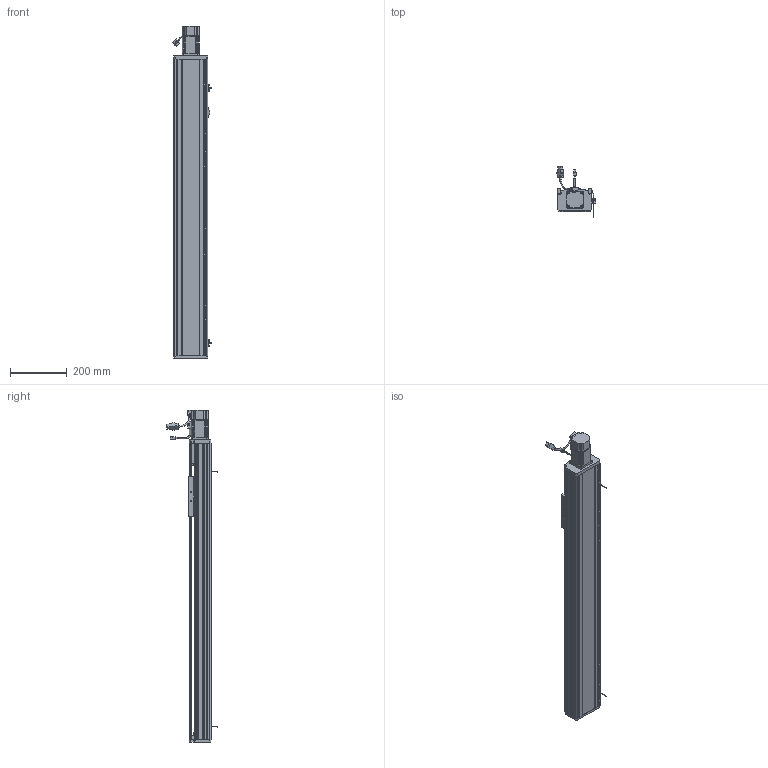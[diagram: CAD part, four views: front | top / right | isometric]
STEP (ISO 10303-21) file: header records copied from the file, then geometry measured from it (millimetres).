
FILE_DESCRIPTION (( 'STEP AP214' ), '1' );
FILE_NAME ('CTH120-800.STEP', '2019-11-20T02:43:34', ( '微软用户' ), ( '微软中国' ), 'SwSTEP 2.0', 'SolidWorks 2017', '' );
FILE_SCHEMA (( 'AUTOMOTIVE_DESIGN' ));
Length unit declared in the file: millimetre
Products named in the file (33): M3-L8囀鞠褒蹟佪; COL12B-粣遠; CT12耀郪-覜茼んえ; 坶踡蹟譫; EE-SX672-BR; 120耀郪-粣創釱; M4-L6半圆头内六角螺丝; 120耀郪-傷啣; M5-L20囀鞠褒蹟佪; 120模组-盖子_默认<按加工>; M5-L12囀鞠褒蹟佪; 120耀郪-侜督儂啣; 怢湛200W侜督萇儂ECMA-CX0602ES; SFH1605; 盓傅釱蚾饜极; 136蹟簽蟀諉輸; 6000; 120模组-移动座_默认<按加工>; 120耀郪-盓傅釱; SFH1605-450; M4-L16囀鞠褒蹟佪; 120模组-底座_默认<按加工>; EGH15-CA; EGH15_RAIL; CTH120-800; 珨极宒粣創釱; 遣喳蝶15x12x8; M4-L10囀鞠褒蹟佪; M4-L22囀鞠褒蹟佪; 7001-DB; 7001; 噩砃EGH15-CA; 粣創揤啣
Assembly tree (90 placements, depth 4):
  CTH120-800
    120模组-底座_默认<按加工>
    SFH1605-450
    120模组-移动座_默认<按加工>
    136蹟簽蟀諉輸
    SFH1605
    120耀郪-侜督儂啣
    120模组-盖子_默认<按加工>
    120耀郪-傷啣
    珨极宒粣創釱
      120耀郪-粣創釱
      坶踡蹟譫
      COL12B-粣遠  x2
      粣創揤啣
      7001-DB
        7001  x2
      M4-L22囀鞠褒蹟佪  x6
      M4-L10囀鞠褒蹟佪  x4
      遣喳蝶15x12x8
    EGH15_RAIL  x2
    EGH15-CA  x2
    M4-L16囀鞠褒蹟佪  x8
    M4-L10囀鞠褒蹟佪  x22
    盓傅釱蚾饜极
      120耀郪-盓傅釱
      6000
      遣喳蝶15x12x8  x2
      M4-L22囀鞠褒蹟佪  x2
    怢湛200W侜督萇儂ECMA-CX0602ES
    M5-L12囀鞠褒蹟佪  x3
    M5-L20囀鞠褒蹟佪  x4
    M4-L6半圆头内六角螺丝  x4
    EE-SX672-BR  x2
    CT12耀郪-覜茼んえ
    M3-L8囀鞠褒蹟佪  x4
    噩砃EGH15-CA  x2
Bounding box: 137.94 x 179.67 x 1172 mm (x, y, z)
Volume: 4442288.6 mm3; surface area: 1364505.6 mm2
Topology: 87 solids, 96 shells, 5378 faces, 14239 edges, 9117 vertices
Faces by surface type: plane 2893, cylinder 1602, cone 549, bspline 241, torus 81, sphere 12
Entity records: 115686 total; most frequent: CARTESIAN_POINT 34167, ORIENTED_EDGE 17216, DIRECTION 15511, EDGE_CURVE 8608, VERTEX_POINT 5651, AXIS2_PLACEMENT_3D 5300, VECTOR 4911, LINE 4911
